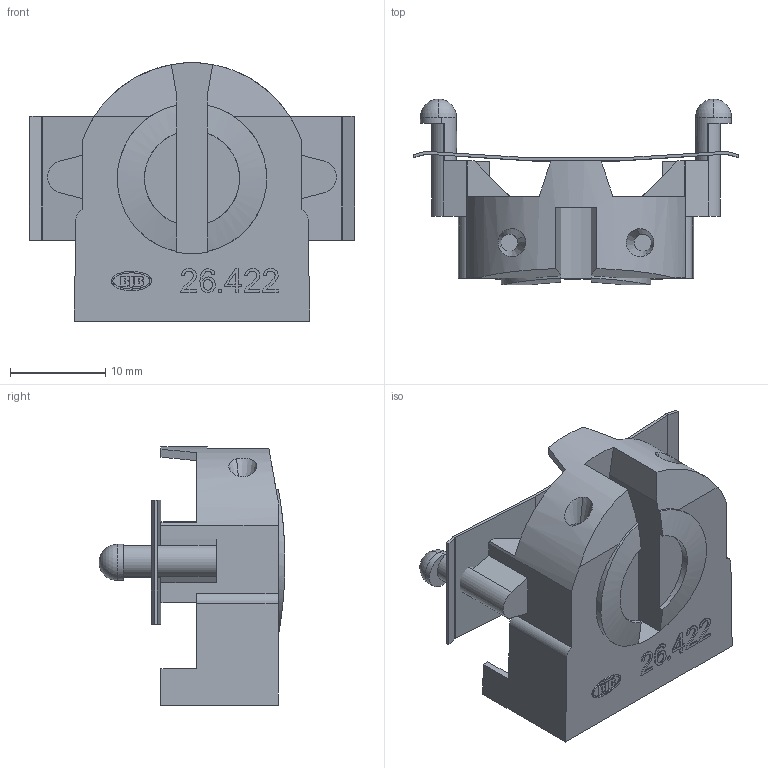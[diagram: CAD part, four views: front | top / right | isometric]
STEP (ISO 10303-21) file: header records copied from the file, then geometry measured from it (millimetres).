
FILE_DESCRIPTION((' '),'1');
FILE_NAME('C:\Programme\CoreTechnologie\in\00B-21A-03.stp','2004-08-24 T',(' '),(' '),'STEP Interface v1717986918.1073636966 by CT CoreTechnologie','3D Evolution v0.1072693248 by CT CoreTechnologie',' ');
FILE_SCHEMA(('CONFIG_CONTROL_DESIGN'));
Length unit declared in the file: metre
Products named in the file (3): 00B-21A-03; 002-G1Z-02; 00B-215-01
Assembly tree (2 placements, depth 2):
  00B-21A-03
    002-G1Z-02
    00B-215-01
Bounding box: 34.22 x 19.52 x 27.13 mm (x, y, z)
Volume: 4876 mm3; surface area: 4198.8 mm2
Topology: 2 solids, 2 shells, 283 faces, 764 edges, 506 vertices
Faces by surface type: plane 181, cylinder 88, bspline 6, cone 4, sphere 4
Entity records: 12382 total; most frequent: CARTESIAN_POINT 2850, ORIENTED_EDGE 1520, DIRECTION 1476, EDGE_CURVE 760, VECTOR 540, LINE 540, VERTEX_POINT 506, AXIS2_PLACEMENT_3D 468
